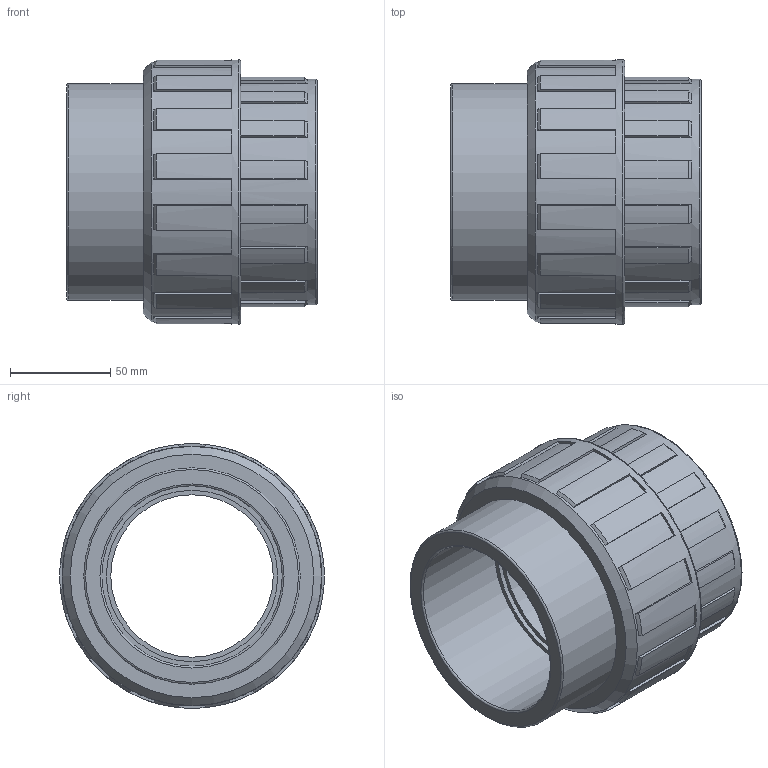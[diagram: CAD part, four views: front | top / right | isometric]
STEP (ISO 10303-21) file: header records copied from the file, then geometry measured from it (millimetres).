
FILE_DESCRIPTION(/* description */ ('PLASSON UNION+O RING-CEM PVC 90'),/* implementation_level */ '2;1');
FILE_NAME(/* name */ 'C:\Dropbox\KIMPROJECTS-Inventor\99-16-3568-Processing\PVC Catalog 2017\050800\050800090.ipt.stp',/* time_stamp */ '2017-12-07T15:57:53+02:00',/* author */ ('Кирилл'),/* organization */ (''),/* preprocessor_version */ 'ST-DEVELOPER v15.6',/* originating_system */ 'Autodesk Inventor 2015',/* authorisation */ '');
FILE_SCHEMA (('AUTOMOTIVE_DESIGN { 1 0 10303 214 3 1 1 }'));
Length unit declared in the file: millimetre
Products named in the file (1): 050800090
Bounding box: 125 x 132 x 132 mm (x, y, z)
Volume: 614918.9 mm3; surface area: 99444.2 mm2
Topology: 1 solids, 1 shells, 149 faces, 420 edges, 278 vertices
Faces by surface type: plane 87, cone 33, cylinder 24, torus 5
Full cylindrical faces by diameter (mm): 81 x1, 85.5 x1, 90 x2, 108 x1, 112.5 x1, 129.36 x1, 132 x1
Entity records: 4784 total; most frequent: DIRECTION 850, CARTESIAN_POINT 828, ORIENTED_EDGE 806, EDGE_CURVE 403, AXIS2_PLACEMENT_3D 297, VERTEX_POINT 275, LINE 256, VECTOR 256
